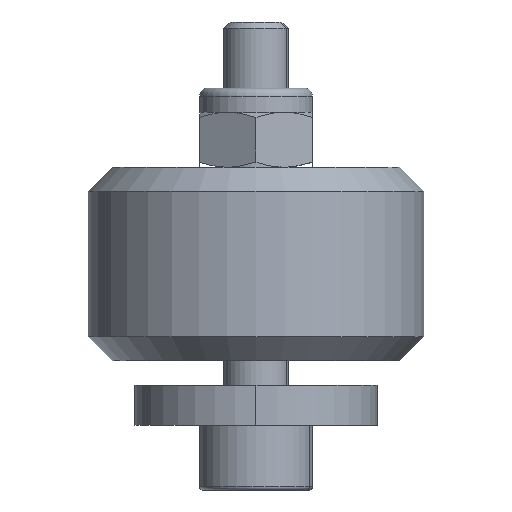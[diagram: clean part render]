
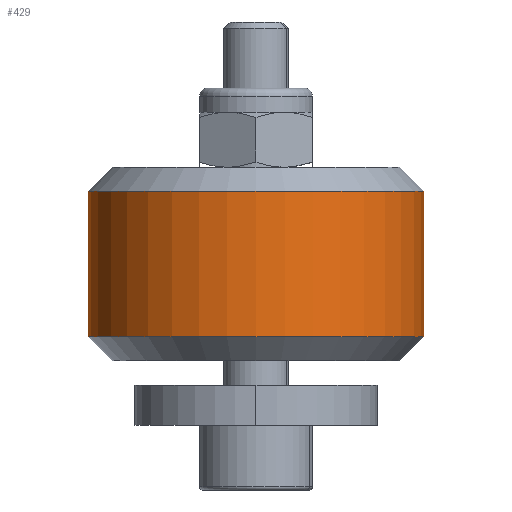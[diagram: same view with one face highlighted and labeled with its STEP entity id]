
A CAD part, front view. The second image highlights one B-rep face of the part: STEP entity #429.
In plain terms, the highlighted cylindrical face has radius 10.4 mm (diameter 20.8 mm), a partial arc.
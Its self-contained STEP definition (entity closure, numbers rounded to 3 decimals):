
#45 = DIRECTION ( 'NONE',  ( 0., 0., 1. ) ) ;
#79 = EDGE_CURVE ( 'NONE', #2296, #2907, #1736, .T. ) ;
#106 = DIRECTION ( 'NONE',  ( 1., 0., 0. ) ) ;
#269 = CYLINDRICAL_SURFACE ( 'NONE', #1075, 10.4 ) ;
#362 = AXIS2_PLACEMENT_3D ( 'NONE', #2384, #824, #1957 ) ;
#429 = ADVANCED_FACE ( 'NONE', ( #2102 ), #269, .T. ) ;
#444 = EDGE_CURVE ( 'NONE', #2262, #2907, #1188, .T. ) ;
#609 = DIRECTION ( 'NONE',  ( 0., 0., 1. ) ) ;
#627 = ORIENTED_EDGE ( 'NONE', *, *, #677, .T. ) ;
#677 = EDGE_CURVE ( 'NONE', #2262, #1473, #1127, .T. ) ;
#790 = EDGE_LOOP ( 'NONE', ( #912, #627, #2588, #1460 ) ) ;
#824 = DIRECTION ( 'NONE',  ( 0., 0., -1. ) ) ;
#912 = ORIENTED_EDGE ( 'NONE', *, *, #444, .F. ) ;
#1075 = AXIS2_PLACEMENT_3D ( 'NONE', #2085, #2537, #106 ) ;
#1109 = LINE ( 'NONE', #1347, #2009 ) ;
#1127 = CIRCLE ( 'NONE', #1790, 10.4 ) ;
#1188 = LINE ( 'NONE', #1669, #2157 ) ;
#1193 = CARTESIAN_POINT ( 'NONE',  ( -10.4, 0., -4.5 ) ) ;
#1345 = CARTESIAN_POINT ( 'NONE',  ( 10.4, 0., -4.5 ) ) ;
#1347 = CARTESIAN_POINT ( 'NONE',  ( 10.4, 0., 6. ) ) ;
#1460 = ORIENTED_EDGE ( 'NONE', *, *, #79, .T. ) ;
#1473 = VERTEX_POINT ( 'NONE', #1345 ) ;
#1545 = CARTESIAN_POINT ( 'NONE',  ( -10.4, 0., 4.5 ) ) ;
#1660 = CARTESIAN_POINT ( 'NONE',  ( 10.4, 0., 4.5 ) ) ;
#1669 = CARTESIAN_POINT ( 'NONE',  ( -10.4, 0., 6. ) ) ;
#1736 = CIRCLE ( 'NONE', #362, 10.4 ) ;
#1790 = AXIS2_PLACEMENT_3D ( 'NONE', #2029, #609, #2917 ) ;
#1957 = DIRECTION ( 'NONE',  ( -1., 0., 0. ) ) ;
#2009 = VECTOR ( 'NONE', #2858, 1000. ) ;
#2029 = CARTESIAN_POINT ( 'NONE',  ( 0., 0., -4.5 ) ) ;
#2085 = CARTESIAN_POINT ( 'NONE',  ( 0., 0., 6. ) ) ;
#2102 = FACE_OUTER_BOUND ( 'NONE', #790, .T. ) ;
#2157 = VECTOR ( 'NONE', #45, 1000. ) ;
#2262 = VERTEX_POINT ( 'NONE', #1193 ) ;
#2296 = VERTEX_POINT ( 'NONE', #1660 ) ;
#2384 = CARTESIAN_POINT ( 'NONE',  ( 0., 0., 4.5 ) ) ;
#2471 = EDGE_CURVE ( 'NONE', #1473, #2296, #1109, .T. ) ;
#2537 = DIRECTION ( 'NONE',  ( 0., 0., 1. ) ) ;
#2588 = ORIENTED_EDGE ( 'NONE', *, *, #2471, .T. ) ;
#2858 = DIRECTION ( 'NONE',  ( 0., 0., 1. ) ) ;
#2907 = VERTEX_POINT ( 'NONE', #1545 ) ;
#2917 = DIRECTION ( 'NONE',  ( 1., 0., 0. ) ) ;
